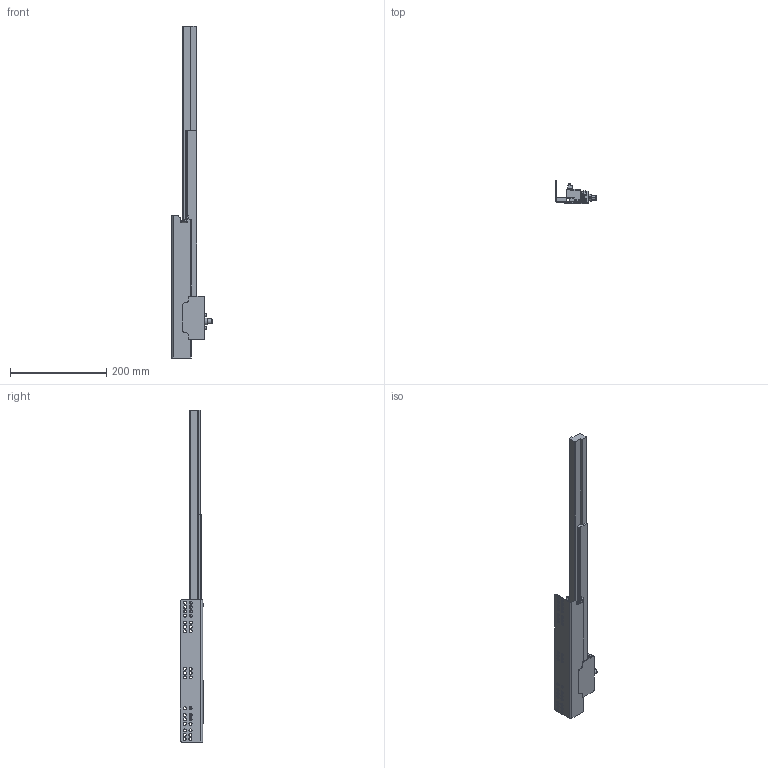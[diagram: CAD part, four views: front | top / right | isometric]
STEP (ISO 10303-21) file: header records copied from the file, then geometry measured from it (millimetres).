
FILE_DESCRIPTION (( 'STEP AP203' ), '1' );
FILE_NAME ('TF10450H-L-DTC3D-open.STEP', '2021-06-05T03:11:25', ( 'df' ), ( 'Microsoft' ), 'SwSTEP 2.0', 'SolidWorks 2018', '' );
FILE_SCHEMA (( 'CONFIG_CONTROL_DESIGN' ));
Length unit declared in the file: millimetre
Products named in the file (1): TF10450H-L-DTC3D-open
Bounding box: 83.3 x 48 x 689.3 mm (x, y, z)
Volume: 440835.6 mm3; surface area: 120934 mm2
Topology: 1 solids, 4 shells, 529 faces, 1367 edges, 845 vertices
Faces by surface type: cylinder 255, plane 166, bspline 102, sphere 4, torus 2
Entity records: 18044 total; most frequent: CARTESIAN_POINT 5301, ORIENTED_EDGE 2712, DIRECTION 2632, EDGE_CURVE 1356, AXIS2_PLACEMENT_3D 982, VERTEX_POINT 845, VECTOR 668, LINE 668
